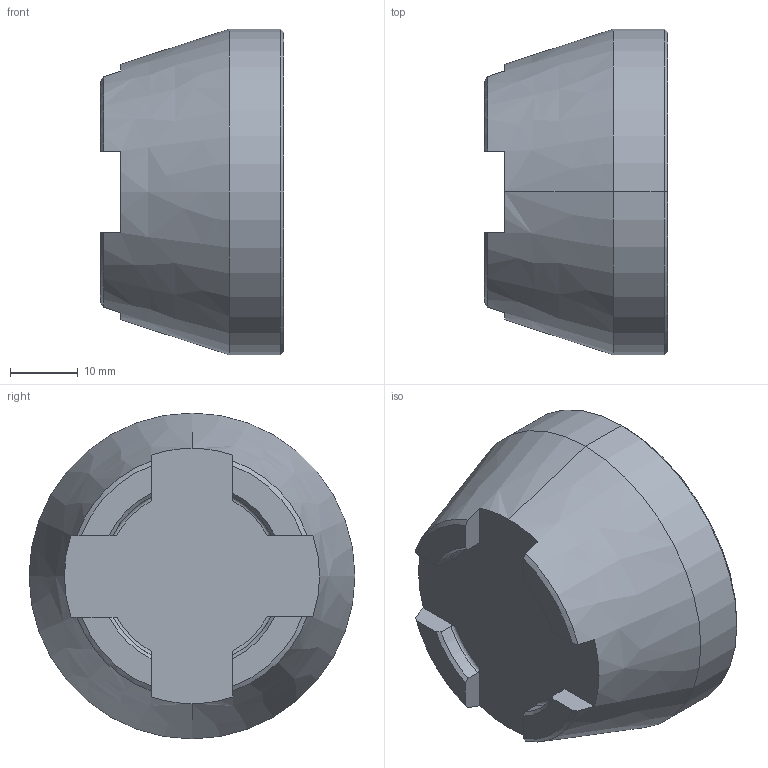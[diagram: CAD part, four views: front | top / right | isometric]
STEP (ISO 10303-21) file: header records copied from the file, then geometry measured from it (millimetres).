
FILE_DESCRIPTION((''),'2;1');
FILE_NAME('0_EDO3_50KN','2018-09-19T',('esche'),(''),'CREO PARAMETRIC BY PTC INC, 2017170','CREO PARAMETRIC BY PTC INC, 2017170','');
FILE_SCHEMA(('CONFIG_CONTROL_DESIGN'));
Length unit declared in the file: millimetre
Products named in the file (1): 0_EDO3_50KN
Bounding box: 27 x 48 x 48 mm (x, y, z)
Volume: 38345.8 mm3; surface area: 6699.1 mm2
Topology: 1 solids, 1 shells, 39 faces, 104 edges, 68 vertices
Faces by surface type: bspline 39
Entity records: 1776 total; most frequent: CARTESIAN_POINT 880, ORIENTED_EDGE 208, DIRECTION 112, EDGE_CURVE 104, VERTEX_POINT 68, AXIS2_PLACEMENT_3D 40, EDGE_LOOP 40, CIRCLE 40
